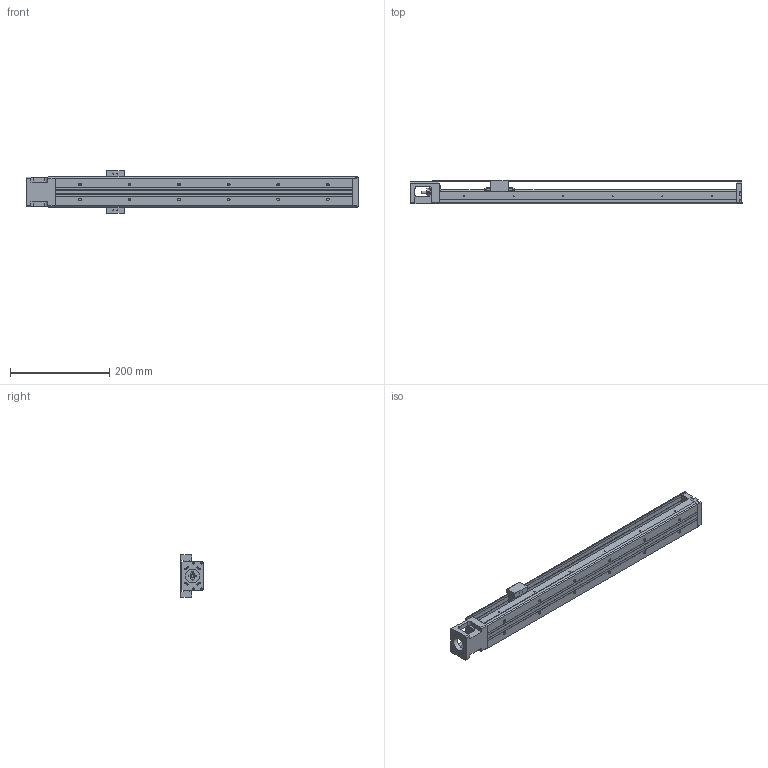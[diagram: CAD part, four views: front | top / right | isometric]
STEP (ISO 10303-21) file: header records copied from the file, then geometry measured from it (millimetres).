
FILE_DESCRIPTION(/* description */ (''),/* implementation_level */ '2;1');
FILE_NAME(/* name */ '33S-600C.stp',/* time_stamp */ '2016-12-20T13:50:15+08:00',/* author */ (''),/* organization */ (''),/* preprocessor_version */ 'ST-DEVELOPER v11',/* originating_system */ 'SIEMENS UGS NX 6.0',/* authorisation */ '');
FILE_SCHEMA (('AUTOMOTIVE_DESIGN { 1 0 10303 214 1 1 1 1 }'));
Length unit declared in the file: millimetre
Products named in the file (1): model4
Bounding box: 670 x 47.95 x 86 mm (x, y, z)
Volume: 794508.9 mm3; surface area: 289600.4 mm2
Topology: 7 solids, 16 shells, 742 faces, 1881 edges, 1243 vertices
Faces by surface type: plane 438, cylinder 219, bspline 31, cone 22, extrusion 21, torus 9, revolution 2
Full cylindrical faces by diameter (mm): 1.6 x4, 1.65 x4, 2.15 x10, 2.42 x4, 2.45 x8, 2.5 x20, 3.2 x4, 3.3 x4, 3.4 x4, 3.5 x10, 3.969 x1, 4 x4, 4.001 x1, 4.135 x2, 4.2 x2, 5.5 x12, 6 x5, 7.6 x1, 8 x5, 9.5 x12, 10.72 x3, 11.8 x2, 12 x6, 12.8 x1, 13 x2, 14 x1, 17.38 x3, 21.5 x1, 22 x2, 28 x1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
Entity records: 37443 total; most frequent: CARTESIAN_POINT 16728, DIRECTION 3374, ORIENTED_EDGE 3250, EDGE_CURVE 1625, AXIS2_PLACEMENT_3D 1199, VERTEX_POINT 1159, EDGE_LOOP 1064, VECTOR 974
